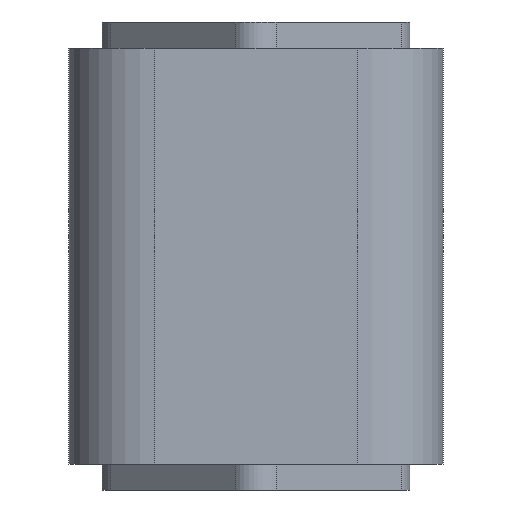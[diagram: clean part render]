
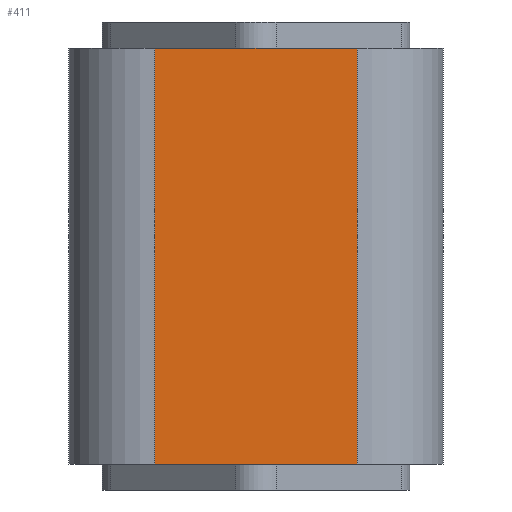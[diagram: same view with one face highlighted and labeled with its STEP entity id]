
A CAD part, front view. The second image highlights one B-rep face of the part: STEP entity #411.
In plain terms, the highlighted planar face has unit normal (0, -1, 0).
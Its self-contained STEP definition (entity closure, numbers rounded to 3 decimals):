
#346=CARTESIAN_POINT('',(19.5,-36.,80.0));
#347=VERTEX_POINT('',#346);
#355=CARTESIAN_POINT('',(19.5,-36.,0.0));
#356=VERTEX_POINT('',#355);
#357=CARTESIAN_POINT('',(19.5,-36.,0.0));
#358=DIRECTION('',(0.0,0.0,1.0));
#359=VECTOR('',#358,80.0);
#360=LINE('',#357,#359);
#361=EDGE_CURVE('',#356,#347,#360,.T.);
#381=CARTESIAN_POINT('',(19.5,-36.,0.0));
#382=DIRECTION('',(0.0,-1.0,0.0));
#383=DIRECTION('',(0.0,0.0,-1.0));
#384=AXIS2_PLACEMENT_3D('',#381,#382,#383);
#385=PLANE('',#384);
#386=CARTESIAN_POINT('',(-19.5,-36.,80.0));
#387=VERTEX_POINT('',#386);
#388=CARTESIAN_POINT('',(19.5,-36.,80.0));
#389=DIRECTION('',(-1.0,0.0,0.0));
#390=VECTOR('',#389,39.);
#391=LINE('',#388,#390);
#392=EDGE_CURVE('',#347,#387,#391,.T.);
#393=ORIENTED_EDGE('',*,*,#392,.T.);
#394=CARTESIAN_POINT('',(-19.5,-36.,0.0));
#395=VERTEX_POINT('',#394);
#396=CARTESIAN_POINT('',(-19.5,-36.,0.0));
#397=DIRECTION('',(0.0,0.0,1.0));
#398=VECTOR('',#397,80.0);
#399=LINE('',#396,#398);
#400=EDGE_CURVE('',#395,#387,#399,.T.);
#401=ORIENTED_EDGE('',*,*,#400,.F.);
#402=CARTESIAN_POINT('',(-19.5,-36.,0.0));
#403=DIRECTION('',(1.0,0.0,0.0));
#404=VECTOR('',#403,39.);
#405=LINE('',#402,#404);
#406=EDGE_CURVE('',#395,#356,#405,.T.);
#407=ORIENTED_EDGE('',*,*,#406,.T.);
#408=ORIENTED_EDGE('',*,*,#361,.T.);
#409=EDGE_LOOP('',(#393,#401,#407,#408));
#410=FACE_OUTER_BOUND('',#409,.T.);
#411=ADVANCED_FACE('',(#410),#385,.T.);
